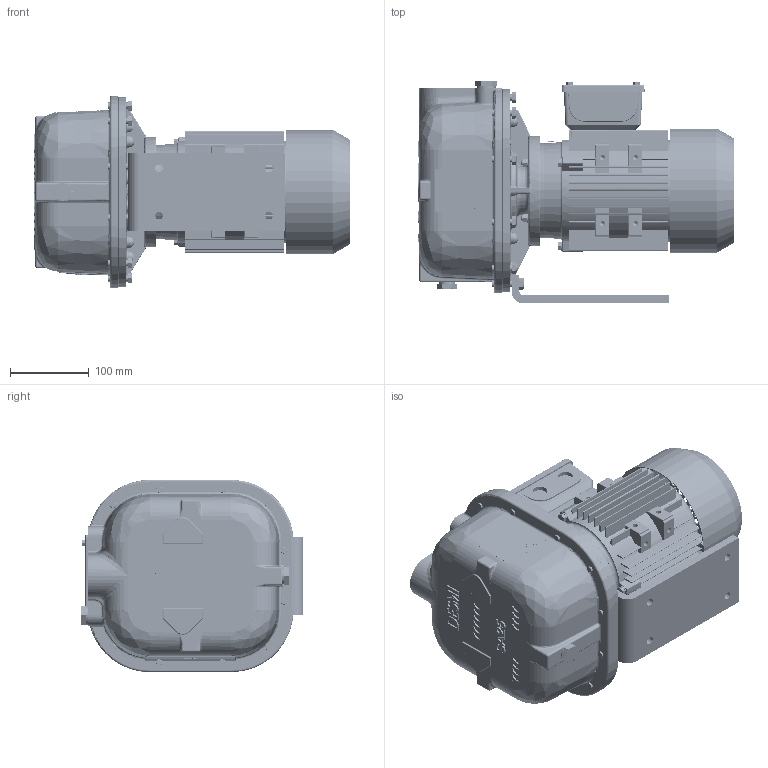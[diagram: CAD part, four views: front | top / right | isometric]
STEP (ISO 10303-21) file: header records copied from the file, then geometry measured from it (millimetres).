
FILE_DESCRIPTION((''),'2;1');
FILE_NAME('SA25_122_12A-2-H_MOTOR_80_ASM','2019-09-27T',('BRHE'),(''),'PRO/ENGINEER BY PARAMETRIC TECHNOLOGY CORPORATION, 2017170','PRO/ENGINEER BY PARAMETRIC TECHNOLOGY CORPORATION, 2017170','');
FILE_SCHEMA(('CONFIG_CONTROL_DESIGN'));
Products named in the file (27): 100635; 100412; 704042; 2350092; 504000; 106256; 704186; 506961; 704187; 506962; 700305; 700307; 113088_AF1; 101422; 709543_AF1; 655201_AF0_ASM; 655200_ASM; 509170; 712943; 106254; 706984; 704054; 704376; 716089; 655206_ASM; 842146; SA25_122_12A-2-H_MOTOR_80_ASM
Assembly tree (52 placements, depth 4):
  SA25_122_12A-2-H_MOTOR_80_ASM
    655200_ASM
      655201_AF0_ASM
        100635
        100412
        704042  x4
        2350092  x4
        504000
        106256
        704186
        506961
        704187
        506962
        700305  x10
        700307  x2
        113088_AF1
        101422
        709543_AF1
    655206_ASM
      509170
      712943
      106254
      706984  x2
      704054  x4
      704376  x4
      716089  x4
    842146
Bounding box: 403 x 283.5 x 245 mm (x, y, z)
Volume: 5640909.7 mm3; surface area: 1045809.7 mm2
Topology: 49 solids, 61 shells, 8747 faces, 23836 edges, 15490 vertices
Faces by surface type: plane 5302, bspline 1298, cylinder 1218, cone 444, torus 268, extrusion 160, sphere 57
Entity records: 334997 total; most frequent: CARTESIAN_POINT 137157, ORIENTED_EDGE 45668, DIRECTION 33651, EDGE_CURVE 22859, VERTEX_POINT 14956, VECTOR 11657, LINE 11497, AXIS2_PLACEMENT_3D 10997
